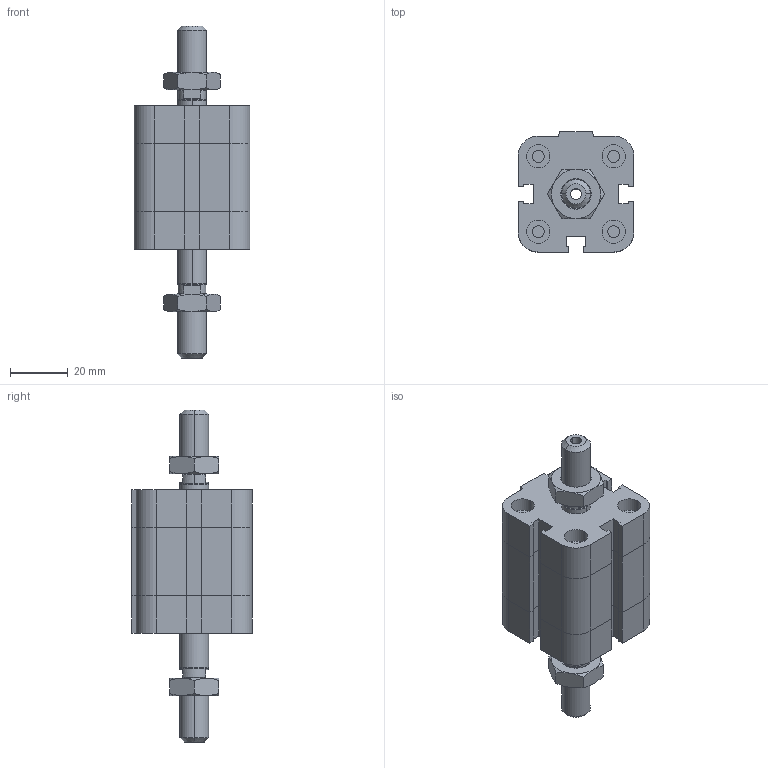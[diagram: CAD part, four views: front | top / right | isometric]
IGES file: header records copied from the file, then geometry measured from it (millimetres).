
Global section: file name: No Iges File Name specified; native system: Autodesk Inventor 2009; preprocessor: AutoDesk Inventor Iges Exporter R2009; author: maffial1; date: 20090420.142651; units: millimetre
Bounding box: 40 x 41.5 x 114.5 mm (x, y, z)
Volume: 75181.9 mm3; surface area: 23305.7 mm2
Topology: 4 solids, 4 shells, 262 faces, 580 edges, 346 vertices
Faces by surface type: plane 129, bspline 53, cone 38, cylinder 22, revolution 20
